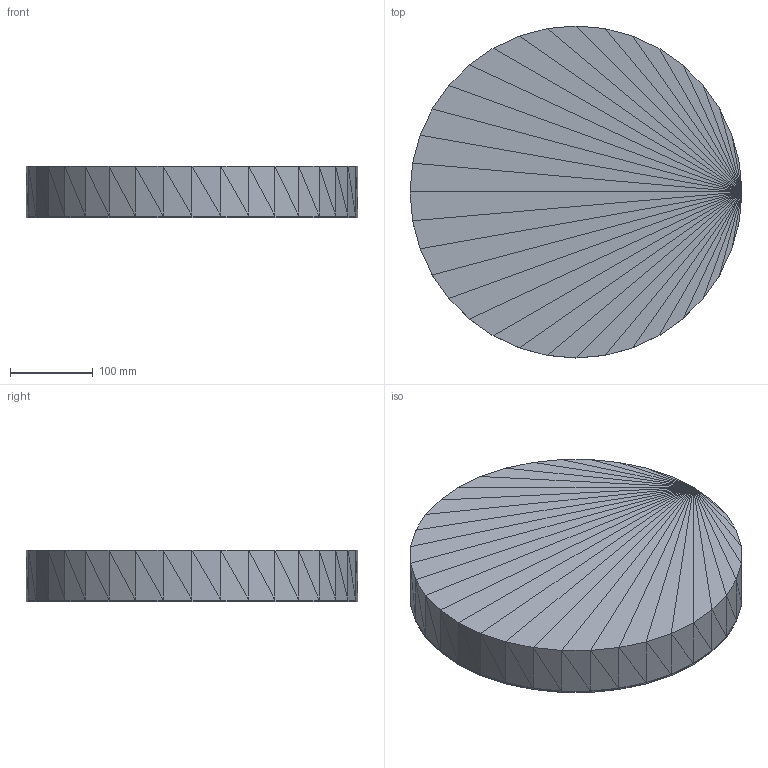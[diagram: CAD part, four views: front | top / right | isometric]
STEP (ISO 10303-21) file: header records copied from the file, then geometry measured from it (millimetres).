
FILE_DESCRIPTION(('ISINAC STEP AP214'),'2;1');
FILE_NAME('ISINAC_CIR.400_60mm_IMANTADA','2026-05-03T10:49:19',('ISINAC'),('www.isinac.com'),'ISINAC BIM Generator 1.0','','');
FILE_SCHEMA(('AUTOMOTIVE_DESIGN'));
Length unit declared in the file: millimetre
Products named in the file (1): ISINAC_CIR.400_60mm_IMANTADA
Bounding box: 400 x 400 x 62 mm (x, y, z)
Surface area: 577919.4 mm2 (no closed solid volume)
Topology: 0 solids, 280 shells, 280 faces, 840 edges, 840 vertices
Faces by surface type: plane 280
Entity records: 3093 total; most frequent: CARTESIAN_POINT 1120, DIRECTION 560, POLY_LOOP 280, FACE_OUTER_BOUND 280, AXIS2_PLACEMENT_3D 280, PLANE 280, FACE_SURFACE 280, CLOSED_SHELL 1
